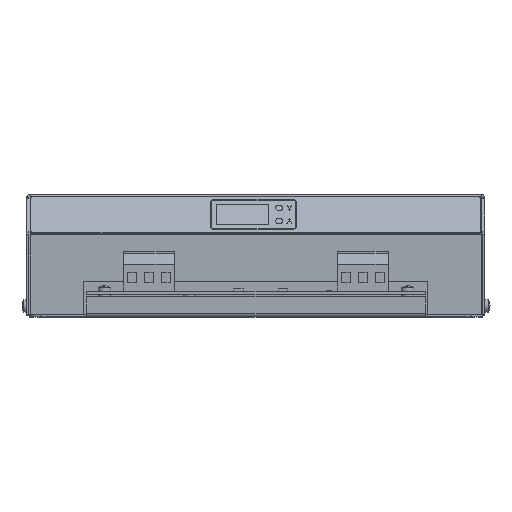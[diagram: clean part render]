
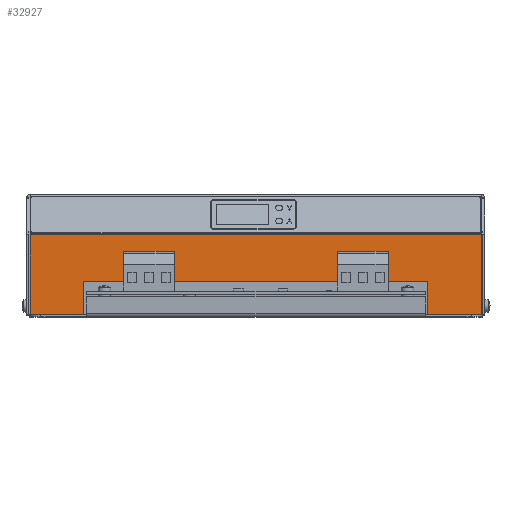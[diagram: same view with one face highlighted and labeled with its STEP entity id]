
A CAD part, top view. The second image highlights one B-rep face of the part: STEP entity #32927.
In plain terms, the highlighted planar face has unit normal (0, 0, 1).
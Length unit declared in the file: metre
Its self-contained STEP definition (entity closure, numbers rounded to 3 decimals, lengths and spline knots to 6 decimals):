
#11269=DIRECTION('',(1.,0.,0.));
#11270=VECTOR('',#11269,0.2025);
#11271=CARTESIAN_POINT('',(-0.061052,0.014,
0.107502));
#11272=LINE('',#11271,#11270);
#11273=DIRECTION('',(0.,-1.,0.));
#11274=VECTOR('',#11273,0.035898);
#11275=CARTESIAN_POINT('',(-0.061052,0.014,
0.107502));
#11276=LINE('',#11275,#11274);
#11277=DIRECTION('',(0.,1.,0.));
#11278=VECTOR('',#11277,0.035898);
#11279=CARTESIAN_POINT('',(0.141448,-0.021898,
0.107502));
#11280=LINE('',#11279,#11278);
#11281=DIRECTION('',(1.,0.,0.));
#11282=VECTOR('',#11281,0.02413);
#11283=CARTESIAN_POINT('',(0.117318,-0.021898,
0.107502));
#11284=LINE('',#11283,#11282);
#11285=DIRECTION('',(0.,-1.,0.));
#11286=VECTOR('',#11285,0.015);
#11287=CARTESIAN_POINT('',(0.117318,-0.006898,
0.107502));
#11288=LINE('',#11287,#11286);
#11289=DIRECTION('',(1.,0.,0.));
#11290=VECTOR('',#11289,0.15424);
#11291=CARTESIAN_POINT('',(-0.036922,-0.006898,
0.107502));
#11292=LINE('',#11291,#11290);
#11293=DIRECTION('',(0.,1.,0.));
#11294=VECTOR('',#11293,0.015);
#11295=CARTESIAN_POINT('',(-0.036922,-0.021898,
0.107502));
#11296=LINE('',#11295,#11294);
#11297=DIRECTION('',(1.,0.,0.));
#11298=VECTOR('',#11297,0.02413);
#11299=CARTESIAN_POINT('',(-0.061052,-0.021898,
0.107502));
#11300=LINE('',#11299,#11298);
#14339=CARTESIAN_POINT('',(-0.061052,0.014,
0.107502));
#14340=VERTEX_POINT('',#14339);
#14341=CARTESIAN_POINT('',(-0.061052,-0.021898,
0.107502));
#14342=VERTEX_POINT('',#14341);
#14353=CARTESIAN_POINT('',(0.141448,-0.021898,
0.107502));
#14354=VERTEX_POINT('',#14353);
#14355=CARTESIAN_POINT('',(0.141448,0.014,
0.107502));
#14356=VERTEX_POINT('',#14355);
#16896=CARTESIAN_POINT('',(0.117318,-0.021898,
0.107502));
#16897=VERTEX_POINT('',#16896);
#16898=CARTESIAN_POINT('',(0.117318,-0.006898,
0.107502));
#16899=VERTEX_POINT('',#16898);
#16900=CARTESIAN_POINT('',(-0.036922,-0.006898,
0.107502));
#16901=VERTEX_POINT('',#16900);
#16902=CARTESIAN_POINT('',(-0.036922,-0.021898,
0.107502));
#16903=VERTEX_POINT('',#16902);
#32906=CARTESIAN_POINT('',(0.141448,-0.021898,
0.107502));
#32907=DIRECTION('',(0.,0.,1.));
#32908=DIRECTION('',(0.,1.,0.));
#32909=AXIS2_PLACEMENT_3D('',#32906,#32907,#32908);
#32910=PLANE('',#32909);
#32912=ORIENTED_EDGE('',*,*,#32911,.F.);
#32913=ORIENTED_EDGE('',*,*,#32899,.T.);
#32914=ORIENTED_EDGE('',*,*,#32837,.F.);
#32916=ORIENTED_EDGE('',*,*,#32915,.F.);
#32918=ORIENTED_EDGE('',*,*,#32917,.F.);
#32920=ORIENTED_EDGE('',*,*,#32919,.F.);
#32922=ORIENTED_EDGE('',*,*,#32921,.F.);
#32924=ORIENTED_EDGE('',*,*,#32923,.F.);
#32925=EDGE_LOOP('',(#32912,#32913,#32914,#32916,#32918,#32920,#32922,#32924));
#32926=FACE_OUTER_BOUND('',#32925,.F.);
#32927=ADVANCED_FACE('',(#32926),#32910,.T.);
#32837=EDGE_CURVE('',#14354,#14356,#11280,.T.);
#32899=EDGE_CURVE('',#14340,#14356,#11272,.T.);
#32911=EDGE_CURVE('',#14340,#14342,#11276,.T.);
#32915=EDGE_CURVE('',#16897,#14354,#11284,.T.);
#32917=EDGE_CURVE('',#16899,#16897,#11288,.T.);
#32919=EDGE_CURVE('',#16901,#16899,#11292,.T.);
#32921=EDGE_CURVE('',#16903,#16901,#11296,.T.);
#32923=EDGE_CURVE('',#14342,#16903,#11300,.T.);
